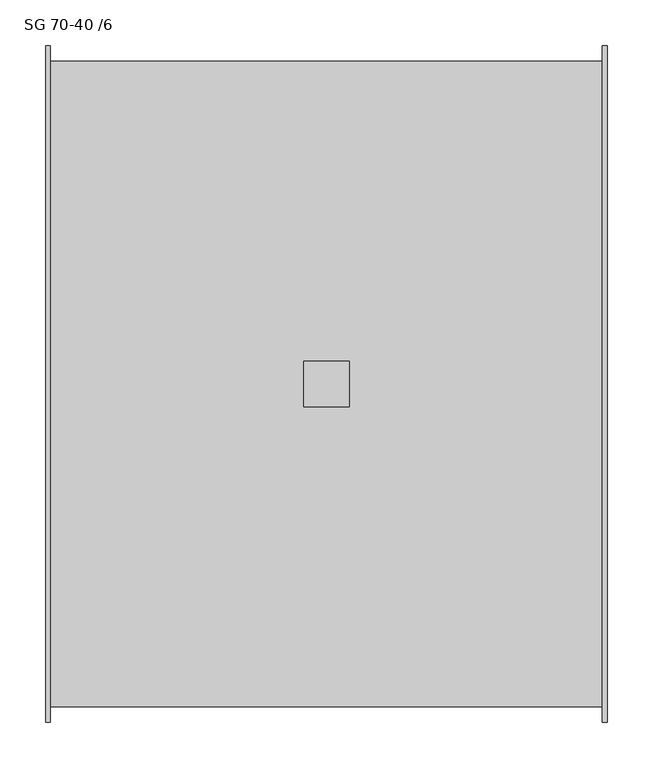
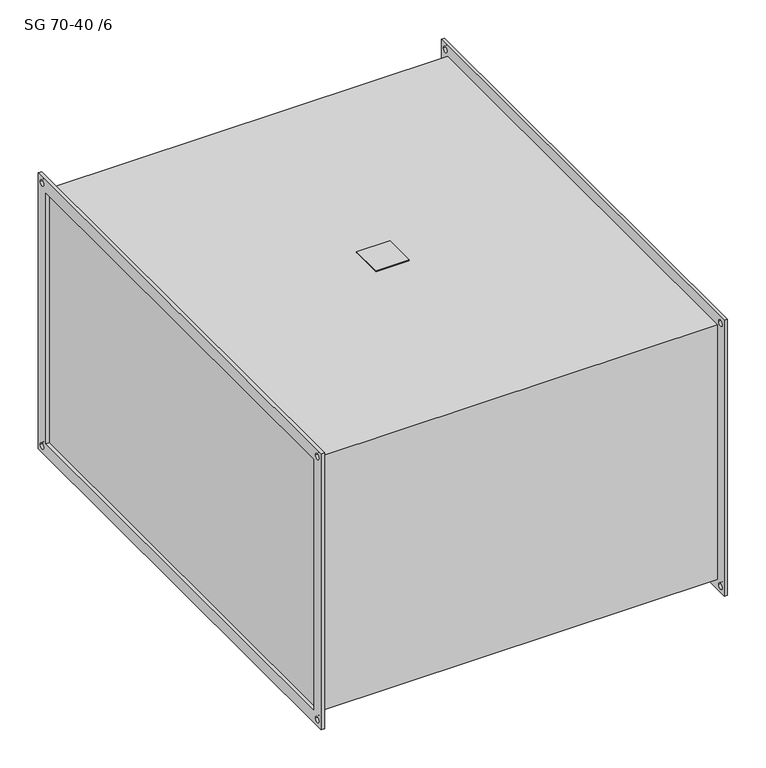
"""IFC4 building model written with IfcOpenShell, lengths in millimetres: damper geometry, KORF_Шумоглушитель_SG : SG 70-40 /6."""

import ifcopenshell
import ifcopenshell.guid

model = None  # the IFC model being written
_history = None  # IfcOwnerHistory: only IFC2X3 demands one
_inside = {}  # id of a spatial element -> (the spatial element, [elements in it])
_under = {}  # id of a project, library or spatial element -> (it, [spatial elements below it])
_declared = {}  # id of a project -> (the project, [libraries it declares])
_typed = {}  # id of a type object -> (the type object, [elements of that type])
_made_of = {}  # id of a material, layer set ... -> (it, [elements and type objects made of it])


def new_model(schema):
    """Start an empty IFC model of exactly this schema.

    Asked for "IFC4X3", IfcOpenShell would pick the latest addendum, in which some entities
    have other attributes; the version numbers below select the first issue.
    IFC2X3 requires an IfcOwnerHistory on every rooted entity: one is made here for all.
    """
    global model, _history
    if schema == "IFC4X3":
        model = ifcopenshell.file(schema_version=(4, 3, 0, 0))
    else:
        model = ifcopenshell.file(schema=schema)
    _inside.clear()
    _under.clear()
    _declared.clear()
    _typed.clear()
    _made_of.clear()
    _history = None
    if model.schema == "IFC2X3":
        org = make("IfcOrganization", Name="unknown")
        user = make(
            "IfcPersonAndOrganization",
            ThePerson=make("IfcPerson", FamilyName="unknown"),
            TheOrganization=org,
        )
        app = make(
            "IfcApplication",
            ApplicationDeveloper=org,
            Version="unknown",
            ApplicationFullName="unknown",
            ApplicationIdentifier="unknown",
        )
        _history = make(
            "IfcOwnerHistory",
            OwningUser=user,
            OwningApplication=app,
            ChangeAction="ADDED",
            CreationDate=0,
        )
    return model


def make(cls, **values):
    """One entity of the class cls with the attributes given. An attribute that is None is left unset."""
    return model.create_entity(
        cls, **{name: value for name, value in values.items() if value is not None}
    )


def rooted(cls, **values):
    """An entity with a GlobalId (a new one), such as an element, a storey or a relation."""
    return make(cls, GlobalId=ifcopenshell.guid.new(), OwnerHistory=_history, **values)


def si_unit(unit_type, name, prefix=None):
    """IfcSIUnit, for example si_unit("LENGTHUNIT", "METRE", prefix="MILLI")."""
    return make("IfcSIUnit", UnitType=unit_type, Prefix=prefix, Name=name)


def assignment(units):
    """IfcUnitAssignment: the units of a project."""
    return None if units is None else make("IfcUnitAssignment", Units=units)


def point(xyz):
    """IfcCartesianPoint."""
    return None if xyz is None else make("IfcCartesianPoint", Coordinates=xyz)


def direction(xyz):
    """IfcDirection."""
    return None if xyz is None else make("IfcDirection", DirectionRatios=xyz)


def frame(location, z_axis=None, x_axis=None):
    """IfcAxis2Placement3D, a coordinate frame: its origin and axes. An axis left out is left unset."""
    return make(
        "IfcAxis2Placement3D",
        Location=point(location),
        Axis=direction(z_axis),
        RefDirection=direction(x_axis),
    )


def frame_2d(location, x_axis=None):
    """IfcAxis2Placement2D, a coordinate frame in the plane: its origin and x axis."""
    return make(
        "IfcAxis2Placement2D", Location=point(location), RefDirection=direction(x_axis)
    )


def origin():
    """The frame at (0, 0, 0) with its axes left unset."""
    return frame((0.0, 0.0, 0.0))


def place(relative_to, where):
    """IfcLocalPlacement: puts the frame where relative to a parent placement (None: the world)."""
    return make(
        "IfcLocalPlacement", PlacementRelTo=relative_to, RelativePlacement=where
    )


def context(
    kind, dimensions, precision=None, world=None, true_north=None, identifier=None
):
    """IfcGeometricRepresentationContext, for example the 3D "Model" context."""
    return make(
        "IfcGeometricRepresentationContext",
        ContextIdentifier=identifier,
        ContextType=kind,
        CoordinateSpaceDimension=dimensions,
        Precision=precision,
        WorldCoordinateSystem=world,
        TrueNorth=true_north,
    )


def project(units=None, contexts=None):
    """IfcProject with its units and contexts."""
    return rooted(
        "IfcProject",
        Name="project",
        RepresentationContexts=contexts,
        UnitsInContext=assignment(units),
    )


def spatial(cls, under=None, at=None, **own):
    """A site, building, storey or space (cls), placed at a placement, below another one or the project."""
    s = rooted(cls, ObjectPlacement=at, **own)
    if under is not None:
        _under.setdefault(under.id(), (under, []))[1].append(s)
    return s


def polyline(points):
    """IfcPolyline through the points."""
    return make("IfcPolyline", Points=[point(p) for p in points])


def circle_curve(where, radius):
    """IfcCircle in the frame where."""
    return make("IfcCircle", Position=where, Radius=radius)


def trimmed(basis, trim1, trim2, sense, master):
    """IfcTrimmedCurve: the piece of a basis curve between two trims."""
    return make(
        "IfcTrimmedCurve",
        BasisCurve=basis,
        Trim1=trim1,
        Trim2=trim2,
        SenseAgreement=sense,
        MasterRepresentation=master,
    )


def segment(curve, same_sense, transition):
    """IfcCompositeCurveSegment."""
    return make(
        "IfcCompositeCurveSegment",
        Transition=transition,
        SameSense=same_sense,
        ParentCurve=curve,
    )


def composite_curve(segments, self_intersect=None):
    """IfcCompositeCurve: segments joined end to end."""
    return make("IfcCompositeCurve", Segments=segments, SelfIntersect=self_intersect)


def outline(outer, holes=None, kind="AREA"):
    """IfcArbitraryClosedProfileDef: a profile drawn as a closed curve; with holes, ...WithVoids."""
    if holes is None:
        return make("IfcArbitraryClosedProfileDef", ProfileType=kind, OuterCurve=outer)
    return make(
        "IfcArbitraryProfileDefWithVoids",
        ProfileType=kind,
        OuterCurve=outer,
        InnerCurves=holes,
    )


def extrude(swept, where, along, depth):
    """IfcExtrudedAreaSolid: the profile swept, set in the frame where, extruded along a direction by depth."""
    return make(
        "IfcExtrudedAreaSolid",
        SweptArea=swept,
        Position=where,
        ExtrudedDirection=direction(along),
        Depth=depth,
    )


def shape(context_of_items, identifier, shape_type, items):
    """IfcShapeRepresentation: the items that make up one representation, for example the "Body"."""
    return make(
        "IfcShapeRepresentation",
        ContextOfItems=context_of_items,
        RepresentationIdentifier=identifier,
        RepresentationType=shape_type,
        Items=items,
    )


def source(mapping_origin, context_of_items, identifier, shape_type, items):
    """IfcRepresentationMap: a shape defined once, which mapped items show again and again."""
    return make(
        "IfcRepresentationMap",
        MappingOrigin=mapping_origin,
        MappedRepresentation=shape(context_of_items, identifier, shape_type, items),
    )


def transform(
    local_origin,
    x_axis=None,
    y_axis=None,
    z_axis=None,
    scale=None,
    scale2=None,
    scale3=None,
    uniform=True,
):
    """IfcCartesianTransformationOperator3D, or its non-uniform kind. x_axis, y_axis, z_axis: its Axis1, 2, 3."""
    if uniform:
        return make(
            "IfcCartesianTransformationOperator3D",
            Axis1=direction(x_axis),
            Axis2=direction(y_axis),
            LocalOrigin=point(local_origin),
            Scale=scale,
            Axis3=direction(z_axis),
        )
    return make(
        "IfcCartesianTransformationOperator3DnonUniform",
        Axis1=direction(x_axis),
        Axis2=direction(y_axis),
        LocalOrigin=point(local_origin),
        Scale=scale,
        Axis3=direction(z_axis),
        Scale2=scale2,
        Scale3=scale3,
    )


def mapped(mapping_source, mapping_target):
    """IfcMappedItem: shows the shape of a source again, moved by a transform."""
    return make(
        "IfcMappedItem", MappingSource=mapping_source, MappingTarget=mapping_target
    )


def made_of(thing, what):
    """Note that an element or type object is made of a material, layer set ...; save() writes the relation."""
    if what is not None:
        _made_of.setdefault(what.id(), (what, []))[1].append(thing)
    return thing


def element(
    cls,
    number,
    at=None,
    inside=None,
    cuts=None,
    type_object=None,
    material=None,
    context=None,
    identifier="Body",
    shape_type=None,
    held_by="IfcProductDefinitionShape",
    body=None,
    shapes=None,
    **own,
):
    """One element of the class cls, such as IfcWall. Its Tag is "e" and its number.

    at: its placement. inside: the storey or other place that contains it. cuts: it is an
    opening in that element (IfcRelVoidsElement). A single representation is given by context,
    identifier, shape_type and body (its items); several are given by shapes. held_by: the class
    of the entity that holds the representations. save() writes the other relations.
    """
    e = rooted(cls, Tag="e%d" % number, ObjectPlacement=at, **own)
    if body is not None:
        shapes = [shape(context, identifier, shape_type, body)]
    if shapes is not None:
        e.Representation = make(held_by, Representations=shapes)
    if inside is not None:
        _inside.setdefault(inside.id(), (inside, []))[1].append(e)
    if cuts is not None:
        rooted(
            "IfcRelVoidsElement", RelatingBuildingElement=cuts, RelatedOpeningElement=e
        )
    if type_object is not None:
        _typed.setdefault(type_object.id(), (type_object, []))[1].append(e)
    return made_of(e, material)


def aggregate(whole, parts):
    """IfcRelAggregates: a whole, such as a stair, and the parts it consists of."""
    return rooted("IfcRelAggregates", RelatingObject=whole, RelatedObjects=parts)


def save(model, path):
    """Write the relations noted so far, then the file.

    IfcRelAggregates (storeys below a building ...), IfcRelContainedInSpatialStructure (elements
    in a storey), IfcRelDefinesByType, IfcRelAssociatesMaterial and IfcRelDeclares: one each for
    every whole, place, type object, material and project.
    """
    for whole, parts in _under.values():
        aggregate(whole, parts)
    for where, things in _inside.values():
        rooted(
            "IfcRelContainedInSpatialStructure",
            RelatedElements=things,
            RelatingStructure=where,
        )
    for kind, things in _typed.values():
        rooted("IfcRelDefinesByType", RelatedObjects=things, RelatingType=kind)
    for what, things in _made_of.values():
        rooted("IfcRelAssociatesMaterial", RelatedObjects=things, RelatingMaterial=what)
    for by, libraries in _declared.values():
        rooted("IfcRelDeclares", RelatingContext=by, RelatedDefinitions=libraries)
    model.write(path)


def sg_70_40_6_c95f8c90(model_context):
    return source(origin(), model_context, "Body", "SweptSolid", [
        extrude(outline(polyline([(282.0, -25.0), (282.0, 25.0), (332.0, 25.0), (332.0, -25.0), (282.0, -25.0)])), frame((0.0, 0.0, 203.0), z_axis=(0.0, 0.0, 1.0), x_axis=(1.0, 0.0, 0.0)), (0.0, 0.0, 1.0), 2.0),
        extrude(outline(polyline([(-370.0, 220.0), (370.0, 220.0), (370.0, -220.0), (-370.0, -220.0), (-370.0, 220.0)]), holes=[polyline([(-350.0, 200.0), (-350.0, -200.0), (350.0, -200.0), (350.0, 200.0), (-350.0, 200.0)]), composite_curve([segment(trimmed(circle_curve(frame_2d((360.0, 210.0)), 4.5), [point((355.5, 210.0))], [point((364.5, 210.0))], True, "CARTESIAN"), True, "CONTINUOUS"), segment(trimmed(circle_curve(frame_2d((360.0, 210.0)), 4.5), [point((364.5, 210.0))], [point((355.5, 210.0))], True, "CARTESIAN"), True, "CONTINUOUS")], self_intersect=False), composite_curve([segment(trimmed(circle_curve(frame_2d((-360.0, 210.0)), 4.5), [point((-364.5, 210.0))], [point((-355.5, 210.0))], True, "CARTESIAN"), True, "CONTINUOUS"), segment(trimmed(circle_curve(frame_2d((-360.0, 210.0)), 4.5), [point((-355.5, 210.0))], [point((-364.5, 210.0))], True, "CARTESIAN"), True, "CONTINUOUS")], self_intersect=False), composite_curve([segment(trimmed(circle_curve(frame_2d((-360.0, -210.0)), 4.5), [point((-364.5, -210.0))], [point((-355.5, -210.0))], True, "CARTESIAN"), True, "CONTINUOUS"), segment(trimmed(circle_curve(frame_2d((-360.0, -210.0)), 4.5), [point((-355.5, -210.0))], [point((-364.5, -210.0))], True, "CARTESIAN"), True, "CONTINUOUS")], self_intersect=False), composite_curve([segment(trimmed(circle_curve(frame_2d((360.0, -210.0)), 4.5), [point((355.5, -210.0))], [point((364.5, -210.0))], True, "CARTESIAN"), True, "CONTINUOUS"), segment(trimmed(circle_curve(frame_2d((360.0, -210.0)), 4.5), [point((364.5, -210.0))], [point((355.5, -210.0))], True, "CARTESIAN"), True, "CONTINUOUS")], self_intersect=False)]), frame((609.0, 0.0, 0.0), z_axis=(1.0, 0.0, 0.0), x_axis=(0.0, 1.0, 0.0)), (0.0, 0.0, 1.0), 5.0),
        extrude(outline(polyline([(-370.0, 220.0), (370.0, 220.0), (370.0, -220.0), (-370.0, -220.0), (-370.0, 220.0)]), holes=[polyline([(-350.0, 200.0), (-350.0, -200.0), (350.0, -200.0), (350.0, 200.0), (-350.0, 200.0)]), composite_curve([segment(trimmed(circle_curve(frame_2d((360.0, 210.0)), 4.5), [point((355.5, 210.0))], [point((364.5, 210.0))], True, "CARTESIAN"), True, "CONTINUOUS"), segment(trimmed(circle_curve(frame_2d((360.0, 210.0)), 4.5), [point((364.5, 210.0))], [point((355.5, 210.0))], True, "CARTESIAN"), True, "CONTINUOUS")], self_intersect=False), composite_curve([segment(trimmed(circle_curve(frame_2d((-360.0, 210.0)), 4.5), [point((-364.5, 210.0))], [point((-355.5, 210.0))], True, "CARTESIAN"), True, "CONTINUOUS"), segment(trimmed(circle_curve(frame_2d((-360.0, 210.0)), 4.5), [point((-355.5, 210.0))], [point((-364.5, 210.0))], True, "CARTESIAN"), True, "CONTINUOUS")], self_intersect=False), composite_curve([segment(trimmed(circle_curve(frame_2d((-360.0, -210.0)), 4.5), [point((-364.5, -210.0))], [point((-355.5, -210.0))], True, "CARTESIAN"), True, "CONTINUOUS"), segment(trimmed(circle_curve(frame_2d((-360.0, -210.0)), 4.5), [point((-355.5, -210.0))], [point((-364.5, -210.0))], True, "CARTESIAN"), True, "CONTINUOUS")], self_intersect=False), composite_curve([segment(trimmed(circle_curve(frame_2d((360.0, -210.0)), 4.5), [point((355.5, -210.0))], [point((364.5, -210.0))], True, "CARTESIAN"), True, "CONTINUOUS"), segment(trimmed(circle_curve(frame_2d((360.0, -210.0)), 4.5), [point((364.5, -210.0))], [point((355.5, -210.0))], True, "CARTESIAN"), True, "CONTINUOUS")], self_intersect=False)]), frame((0.0, 0.0, 0.0), z_axis=(1.0, 0.0, 0.0), x_axis=(0.0, 1.0, 0.0)), (0.0, 0.0, 1.0), 5.0),
        extrude(outline(polyline([(609.0, 353.0), (609.0, -353.0), (5.0, -353.0), (5.0, 353.0), (609.0, 353.0)])), frame((0.0, 0.0, -203.0), z_axis=(0.0, 0.0, 1.0), x_axis=(1.0, 0.0, 0.0)), (0.0, 0.0, 1.0), 406.0),
    ])


if __name__ == "__main__":
    model = new_model("IFC4")
    model_context = context("Model", 3, world=origin())
    ifc_project = project(units=[si_unit("LENGTHUNIT", "METRE", prefix="MILLI")], contexts=[model_context])
    site = spatial("IfcSite", under=ifc_project)
    building = spatial("IfcBuilding", under=site)
    placement = place(None, origin())
    sg_70_40_6_shape = sg_70_40_6_c95f8c90(model_context)
    element("IfcDamper", 1, ObjectType="KORF_Шумоглушитель_SG : SG 70-40 /6", at=placement, inside=building, context=model_context, shape_type="MappedRepresentation", body=[
        mapped(sg_70_40_6_shape, transform((0.0, 0.0, 0.0), x_axis=(1.0, 0.0, 0.0), y_axis=(0.0, 1.0, 0.0), z_axis=(0.0, 0.0, 1.0))),
    ])
    save(model, "model.ifc")
